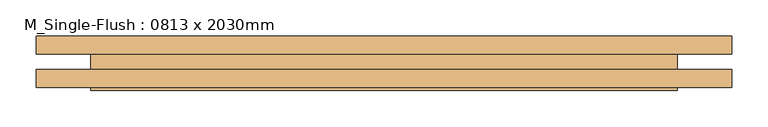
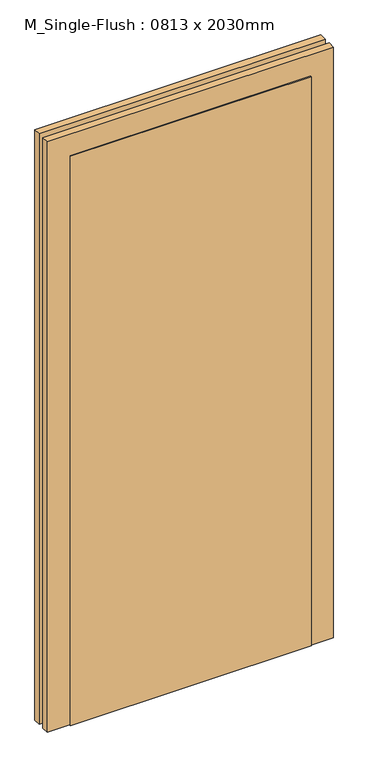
"""IFC4 building model written with IfcOpenShell, lengths in millimetres: door geometry, M_Single-Flush : 0813 x 2030mm."""

import ifcopenshell
import ifcopenshell.guid

model = None  # the IFC model being written
_history = None  # IfcOwnerHistory: only IFC2X3 demands one
_inside = {}  # id of a spatial element -> (the spatial element, [elements in it])
_under = {}  # id of a project, library or spatial element -> (it, [spatial elements below it])
_declared = {}  # id of a project -> (the project, [libraries it declares])
_typed = {}  # id of a type object -> (the type object, [elements of that type])
_made_of = {}  # id of a material, layer set ... -> (it, [elements and type objects made of it])


def new_model(schema):
    """Start an empty IFC model of exactly this schema.

    Asked for "IFC4X3", IfcOpenShell would pick the latest addendum, in which some entities
    have other attributes; the version numbers below select the first issue.
    IFC2X3 requires an IfcOwnerHistory on every rooted entity: one is made here for all.
    """
    global model, _history
    if schema == "IFC4X3":
        model = ifcopenshell.file(schema_version=(4, 3, 0, 0))
    else:
        model = ifcopenshell.file(schema=schema)
    _inside.clear()
    _under.clear()
    _declared.clear()
    _typed.clear()
    _made_of.clear()
    _history = None
    if model.schema == "IFC2X3":
        org = make("IfcOrganization", Name="unknown")
        user = make(
            "IfcPersonAndOrganization",
            ThePerson=make("IfcPerson", FamilyName="unknown"),
            TheOrganization=org,
        )
        app = make(
            "IfcApplication",
            ApplicationDeveloper=org,
            Version="unknown",
            ApplicationFullName="unknown",
            ApplicationIdentifier="unknown",
        )
        _history = make(
            "IfcOwnerHistory",
            OwningUser=user,
            OwningApplication=app,
            ChangeAction="ADDED",
            CreationDate=0,
        )
    return model


def make(cls, **values):
    """One entity of the class cls with the attributes given. An attribute that is None is left unset."""
    return model.create_entity(
        cls, **{name: value for name, value in values.items() if value is not None}
    )


def rooted(cls, **values):
    """An entity with a GlobalId (a new one), such as an element, a storey or a relation."""
    return make(cls, GlobalId=ifcopenshell.guid.new(), OwnerHistory=_history, **values)


def si_unit(unit_type, name, prefix=None):
    """IfcSIUnit, for example si_unit("LENGTHUNIT", "METRE", prefix="MILLI")."""
    return make("IfcSIUnit", UnitType=unit_type, Prefix=prefix, Name=name)


def assignment(units):
    """IfcUnitAssignment: the units of a project."""
    return None if units is None else make("IfcUnitAssignment", Units=units)


def point(xyz):
    """IfcCartesianPoint."""
    return None if xyz is None else make("IfcCartesianPoint", Coordinates=xyz)


def direction(xyz):
    """IfcDirection."""
    return None if xyz is None else make("IfcDirection", DirectionRatios=xyz)


def frame(location, z_axis=None, x_axis=None):
    """IfcAxis2Placement3D, a coordinate frame: its origin and axes. An axis left out is left unset."""
    return make(
        "IfcAxis2Placement3D",
        Location=point(location),
        Axis=direction(z_axis),
        RefDirection=direction(x_axis),
    )


def origin():
    """The frame at (0, 0, 0) with its axes left unset."""
    return frame((0.0, 0.0, 0.0))


def origin_with_axes():
    """The frame at (0, 0, 0) with the z axis (0, 0, 1) and the x axis (1, 0, 0) written out."""
    return frame((0.0, 0.0, 0.0), z_axis=(0.0, 0.0, 1.0), x_axis=(1.0, 0.0, 0.0))


def place(relative_to, where):
    """IfcLocalPlacement: puts the frame where relative to a parent placement (None: the world)."""
    return make(
        "IfcLocalPlacement", PlacementRelTo=relative_to, RelativePlacement=where
    )


def context(
    kind, dimensions, precision=None, world=None, true_north=None, identifier=None
):
    """IfcGeometricRepresentationContext, for example the 3D "Model" context."""
    return make(
        "IfcGeometricRepresentationContext",
        ContextIdentifier=identifier,
        ContextType=kind,
        CoordinateSpaceDimension=dimensions,
        Precision=precision,
        WorldCoordinateSystem=world,
        TrueNorth=true_north,
    )


def project(units=None, contexts=None):
    """IfcProject with its units and contexts."""
    return rooted(
        "IfcProject",
        Name="project",
        RepresentationContexts=contexts,
        UnitsInContext=assignment(units),
    )


def spatial(cls, under=None, at=None, **own):
    """A site, building, storey or space (cls), placed at a placement, below another one or the project."""
    s = rooted(cls, ObjectPlacement=at, **own)
    if under is not None:
        _under.setdefault(under.id(), (under, []))[1].append(s)
    return s


def polyline(points):
    """IfcPolyline through the points."""
    return make("IfcPolyline", Points=[point(p) for p in points])


def outline(outer, holes=None, kind="AREA"):
    """IfcArbitraryClosedProfileDef: a profile drawn as a closed curve; with holes, ...WithVoids."""
    if holes is None:
        return make("IfcArbitraryClosedProfileDef", ProfileType=kind, OuterCurve=outer)
    return make(
        "IfcArbitraryProfileDefWithVoids",
        ProfileType=kind,
        OuterCurve=outer,
        InnerCurves=holes,
    )


def extrude(swept, where, along, depth):
    """IfcExtrudedAreaSolid: the profile swept, set in the frame where, extruded along a direction by depth."""
    return make(
        "IfcExtrudedAreaSolid",
        SweptArea=swept,
        Position=where,
        ExtrudedDirection=direction(along),
        Depth=depth,
    )


def shape(context_of_items, identifier, shape_type, items):
    """IfcShapeRepresentation: the items that make up one representation, for example the "Body"."""
    return make(
        "IfcShapeRepresentation",
        ContextOfItems=context_of_items,
        RepresentationIdentifier=identifier,
        RepresentationType=shape_type,
        Items=items,
    )


def source(mapping_origin, context_of_items, identifier, shape_type, items):
    """IfcRepresentationMap: a shape defined once, which mapped items show again and again."""
    return make(
        "IfcRepresentationMap",
        MappingOrigin=mapping_origin,
        MappedRepresentation=shape(context_of_items, identifier, shape_type, items),
    )


def transform(
    local_origin,
    x_axis=None,
    y_axis=None,
    z_axis=None,
    scale=None,
    scale2=None,
    scale3=None,
    uniform=True,
):
    """IfcCartesianTransformationOperator3D, or its non-uniform kind. x_axis, y_axis, z_axis: its Axis1, 2, 3."""
    if uniform:
        return make(
            "IfcCartesianTransformationOperator3D",
            Axis1=direction(x_axis),
            Axis2=direction(y_axis),
            LocalOrigin=point(local_origin),
            Scale=scale,
            Axis3=direction(z_axis),
        )
    return make(
        "IfcCartesianTransformationOperator3DnonUniform",
        Axis1=direction(x_axis),
        Axis2=direction(y_axis),
        LocalOrigin=point(local_origin),
        Scale=scale,
        Axis3=direction(z_axis),
        Scale2=scale2,
        Scale3=scale3,
    )


def mapped(mapping_source, mapping_target):
    """IfcMappedItem: shows the shape of a source again, moved by a transform."""
    return make(
        "IfcMappedItem", MappingSource=mapping_source, MappingTarget=mapping_target
    )


def made_of(thing, what):
    """Note that an element or type object is made of a material, layer set ...; save() writes the relation."""
    if what is not None:
        _made_of.setdefault(what.id(), (what, []))[1].append(thing)
    return thing


def element(
    cls,
    number,
    at=None,
    inside=None,
    cuts=None,
    type_object=None,
    material=None,
    context=None,
    identifier="Body",
    shape_type=None,
    held_by="IfcProductDefinitionShape",
    body=None,
    shapes=None,
    **own,
):
    """One element of the class cls, such as IfcWall. Its Tag is "e" and its number.

    at: its placement. inside: the storey or other place that contains it. cuts: it is an
    opening in that element (IfcRelVoidsElement). A single representation is given by context,
    identifier, shape_type and body (its items); several are given by shapes. held_by: the class
    of the entity that holds the representations. save() writes the other relations.
    """
    e = rooted(cls, Tag="e%d" % number, ObjectPlacement=at, **own)
    if body is not None:
        shapes = [shape(context, identifier, shape_type, body)]
    if shapes is not None:
        e.Representation = make(held_by, Representations=shapes)
    if inside is not None:
        _inside.setdefault(inside.id(), (inside, []))[1].append(e)
    if cuts is not None:
        rooted(
            "IfcRelVoidsElement", RelatingBuildingElement=cuts, RelatedOpeningElement=e
        )
    if type_object is not None:
        _typed.setdefault(type_object.id(), (type_object, []))[1].append(e)
    return made_of(e, material)


def aggregate(whole, parts):
    """IfcRelAggregates: a whole, such as a stair, and the parts it consists of."""
    return rooted("IfcRelAggregates", RelatingObject=whole, RelatedObjects=parts)


def save(model, path):
    """Write the relations noted so far, then the file.

    IfcRelAggregates (storeys below a building ...), IfcRelContainedInSpatialStructure (elements
    in a storey), IfcRelDefinesByType, IfcRelAssociatesMaterial and IfcRelDeclares: one each for
    every whole, place, type object, material and project.
    """
    for whole, parts in _under.values():
        aggregate(whole, parts)
    for where, things in _inside.values():
        rooted(
            "IfcRelContainedInSpatialStructure",
            RelatedElements=things,
            RelatingStructure=where,
        )
    for kind, things in _typed.values():
        rooted("IfcRelDefinesByType", RelatedObjects=things, RelatingType=kind)
    for what, things in _made_of.values():
        rooted("IfcRelAssociatesMaterial", RelatedObjects=things, RelatingMaterial=what)
    for by, libraries in _declared.values():
        rooted("IfcRelDeclares", RelatingContext=by, RelatedDefinitions=libraries)
    model.write(path)


def m_single_flush_0813_x_2030mm_77d0a044(model_context):
    return source(origin(), model_context, "Body", "SweptSolid", [
        extrude(outline(polyline([(2106.0, -482.5), (0.0, -482.5), (0.0, -406.5), (2030.0, -406.5), (2030.0, 406.5), (0.0, 406.5), (0.0, 482.5), (2106.0, 482.5), (2106.0, -482.5)])), frame((0.0, 11.0, 0.0), z_axis=(0.0, 1.0, 0.0), x_axis=(0.0, 0.0, 1.0)), (0.0, 0.0, 1.0), 25.0),
        extrude(outline(polyline([(2106.0, 482.5), (2106.0, -482.5), (0.0, -482.5), (0.0, -406.5), (2030.0, -406.5), (2030.0, 406.5), (0.0, 406.5), (0.0, 482.5), (2106.0, 482.5)])), frame((0.0, -36.0, 0.0), z_axis=(0.0, 1.0, 0.0), x_axis=(0.0, 0.0, 1.0)), (0.0, 0.0, 1.0), 25.0),
        extrude(outline(polyline([(406.5, -40.0), (-406.5, -40.0), (-406.5, 11.0), (406.5, 11.0), (406.5, -40.0)])), origin_with_axes(), (0.0, 0.0, 1.0), 2030.0),
    ])


if __name__ == "__main__":
    model = new_model("IFC4")
    model_context = context("Model", 3, world=origin())
    ifc_project = project(units=[si_unit("LENGTHUNIT", "METRE", prefix="MILLI")], contexts=[model_context])
    site = spatial("IfcSite", under=ifc_project)
    building = spatial("IfcBuilding", under=site)
    placement = place(None, origin())
    m_single_flush_0813_x_2030mm_shape = m_single_flush_0813_x_2030mm_77d0a044(model_context)
    element("IfcDoor", 1, ObjectType="M_Single-Flush : 0813 x 2030mm", at=placement, inside=building, context=model_context, shape_type="MappedRepresentation", body=[
        mapped(m_single_flush_0813_x_2030mm_shape, transform((0.0, 0.0, 0.0), x_axis=(1.0, 0.0, 0.0), y_axis=(0.0, 1.0, 0.0), z_axis=(0.0, 0.0, 1.0))),
    ])
    save(model, "model.ifc")
